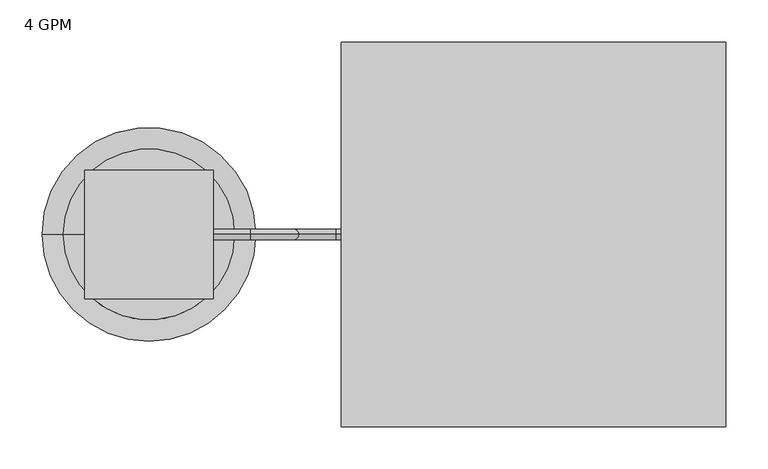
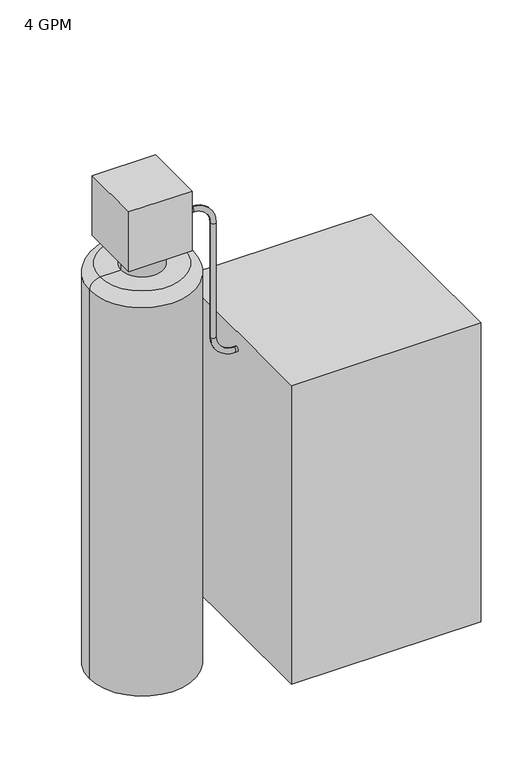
"""IFC4 building model written with IfcOpenShell, lengths in millimetres: proxy geometry, Water Softener : 4 GPM."""

import ifcopenshell
import ifcopenshell.guid

model = None  # the IFC model being written
_history = None  # IfcOwnerHistory: only IFC2X3 demands one
_inside = {}  # id of a spatial element -> (the spatial element, [elements in it])
_under = {}  # id of a project, library or spatial element -> (it, [spatial elements below it])
_declared = {}  # id of a project -> (the project, [libraries it declares])
_typed = {}  # id of a type object -> (the type object, [elements of that type])
_made_of = {}  # id of a material, layer set ... -> (it, [elements and type objects made of it])


def new_model(schema):
    """Start an empty IFC model of exactly this schema.

    Asked for "IFC4X3", IfcOpenShell would pick the latest addendum, in which some entities
    have other attributes; the version numbers below select the first issue.
    IFC2X3 requires an IfcOwnerHistory on every rooted entity: one is made here for all.
    """
    global model, _history
    if schema == "IFC4X3":
        model = ifcopenshell.file(schema_version=(4, 3, 0, 0))
    else:
        model = ifcopenshell.file(schema=schema)
    _inside.clear()
    _under.clear()
    _declared.clear()
    _typed.clear()
    _made_of.clear()
    _history = None
    if model.schema == "IFC2X3":
        org = make("IfcOrganization", Name="unknown")
        user = make(
            "IfcPersonAndOrganization",
            ThePerson=make("IfcPerson", FamilyName="unknown"),
            TheOrganization=org,
        )
        app = make(
            "IfcApplication",
            ApplicationDeveloper=org,
            Version="unknown",
            ApplicationFullName="unknown",
            ApplicationIdentifier="unknown",
        )
        _history = make(
            "IfcOwnerHistory",
            OwningUser=user,
            OwningApplication=app,
            ChangeAction="ADDED",
            CreationDate=0,
        )
    return model


def make(cls, **values):
    """One entity of the class cls with the attributes given. An attribute that is None is left unset."""
    return model.create_entity(
        cls, **{name: value for name, value in values.items() if value is not None}
    )


def rooted(cls, **values):
    """An entity with a GlobalId (a new one), such as an element, a storey or a relation."""
    return make(cls, GlobalId=ifcopenshell.guid.new(), OwnerHistory=_history, **values)


def si_unit(unit_type, name, prefix=None):
    """IfcSIUnit, for example si_unit("LENGTHUNIT", "METRE", prefix="MILLI")."""
    return make("IfcSIUnit", UnitType=unit_type, Prefix=prefix, Name=name)


def assignment(units):
    """IfcUnitAssignment: the units of a project."""
    return None if units is None else make("IfcUnitAssignment", Units=units)


def point(xyz):
    """IfcCartesianPoint."""
    return None if xyz is None else make("IfcCartesianPoint", Coordinates=xyz)


def direction(xyz):
    """IfcDirection."""
    return None if xyz is None else make("IfcDirection", DirectionRatios=xyz)


def frame(location, z_axis=None, x_axis=None):
    """IfcAxis2Placement3D, a coordinate frame: its origin and axes. An axis left out is left unset."""
    return make(
        "IfcAxis2Placement3D",
        Location=point(location),
        Axis=direction(z_axis),
        RefDirection=direction(x_axis),
    )


def frame_2d(location, x_axis=None):
    """IfcAxis2Placement2D, a coordinate frame in the plane: its origin and x axis."""
    return make(
        "IfcAxis2Placement2D", Location=point(location), RefDirection=direction(x_axis)
    )


def origin():
    """The frame at (0, 0, 0) with its axes left unset."""
    return frame((0.0, 0.0, 0.0))


def origin_with_axes():
    """The frame at (0, 0, 0) with the z axis (0, 0, 1) and the x axis (1, 0, 0) written out."""
    return frame((0.0, 0.0, 0.0), z_axis=(0.0, 0.0, 1.0), x_axis=(1.0, 0.0, 0.0))


def origin_2d():
    """The frame at (0, 0) in the plane with its x axis left unset."""
    return frame_2d((0.0, 0.0))


def place(relative_to, where):
    """IfcLocalPlacement: puts the frame where relative to a parent placement (None: the world)."""
    return make(
        "IfcLocalPlacement", PlacementRelTo=relative_to, RelativePlacement=where
    )


def context(
    kind, dimensions, precision=None, world=None, true_north=None, identifier=None
):
    """IfcGeometricRepresentationContext, for example the 3D "Model" context."""
    return make(
        "IfcGeometricRepresentationContext",
        ContextIdentifier=identifier,
        ContextType=kind,
        CoordinateSpaceDimension=dimensions,
        Precision=precision,
        WorldCoordinateSystem=world,
        TrueNorth=true_north,
    )


def project(units=None, contexts=None):
    """IfcProject with its units and contexts."""
    return rooted(
        "IfcProject",
        Name="project",
        RepresentationContexts=contexts,
        UnitsInContext=assignment(units),
    )


def spatial(cls, under=None, at=None, **own):
    """A site, building, storey or space (cls), placed at a placement, below another one or the project."""
    s = rooted(cls, ObjectPlacement=at, **own)
    if under is not None:
        _under.setdefault(under.id(), (under, []))[1].append(s)
    return s


def polyline(points):
    """IfcPolyline through the points."""
    return make("IfcPolyline", Points=[point(p) for p in points])


def circle_curve(where, radius):
    """IfcCircle in the frame where."""
    return make("IfcCircle", Position=where, Radius=radius)


def ellipse_curve(where, semi_axis1, semi_axis2):
    """IfcEllipse in the frame where."""
    return make(
        "IfcEllipse", Position=where, SemiAxis1=semi_axis1, SemiAxis2=semi_axis2
    )


def trimmed(basis, trim1, trim2, sense, master):
    """IfcTrimmedCurve: the piece of a basis curve between two trims."""
    return make(
        "IfcTrimmedCurve",
        BasisCurve=basis,
        Trim1=trim1,
        Trim2=trim2,
        SenseAgreement=sense,
        MasterRepresentation=master,
    )


def segment(curve, same_sense, transition):
    """IfcCompositeCurveSegment."""
    return make(
        "IfcCompositeCurveSegment",
        Transition=transition,
        SameSense=same_sense,
        ParentCurve=curve,
    )


def composite_curve(segments, self_intersect=None):
    """IfcCompositeCurve: segments joined end to end."""
    return make("IfcCompositeCurve", Segments=segments, SelfIntersect=self_intersect)


def outline(outer, holes=None, kind="AREA"):
    """IfcArbitraryClosedProfileDef: a profile drawn as a closed curve; with holes, ...WithVoids."""
    if holes is None:
        return make("IfcArbitraryClosedProfileDef", ProfileType=kind, OuterCurve=outer)
    return make(
        "IfcArbitraryProfileDefWithVoids",
        ProfileType=kind,
        OuterCurve=outer,
        InnerCurves=holes,
    )


def extrude(swept, where, along, depth):
    """IfcExtrudedAreaSolid: the profile swept, set in the frame where, extruded along a direction by depth."""
    return make(
        "IfcExtrudedAreaSolid",
        SweptArea=swept,
        Position=where,
        ExtrudedDirection=direction(along),
        Depth=depth,
    )


def shape(context_of_items, identifier, shape_type, items):
    """IfcShapeRepresentation: the items that make up one representation, for example the "Body"."""
    return make(
        "IfcShapeRepresentation",
        ContextOfItems=context_of_items,
        RepresentationIdentifier=identifier,
        RepresentationType=shape_type,
        Items=items,
    )


def source(mapping_origin, context_of_items, identifier, shape_type, items):
    """IfcRepresentationMap: a shape defined once, which mapped items show again and again."""
    return make(
        "IfcRepresentationMap",
        MappingOrigin=mapping_origin,
        MappedRepresentation=shape(context_of_items, identifier, shape_type, items),
    )


def transform(
    local_origin,
    x_axis=None,
    y_axis=None,
    z_axis=None,
    scale=None,
    scale2=None,
    scale3=None,
    uniform=True,
):
    """IfcCartesianTransformationOperator3D, or its non-uniform kind. x_axis, y_axis, z_axis: its Axis1, 2, 3."""
    if uniform:
        return make(
            "IfcCartesianTransformationOperator3D",
            Axis1=direction(x_axis),
            Axis2=direction(y_axis),
            LocalOrigin=point(local_origin),
            Scale=scale,
            Axis3=direction(z_axis),
        )
    return make(
        "IfcCartesianTransformationOperator3DnonUniform",
        Axis1=direction(x_axis),
        Axis2=direction(y_axis),
        LocalOrigin=point(local_origin),
        Scale=scale,
        Axis3=direction(z_axis),
        Scale2=scale2,
        Scale3=scale3,
    )


def mapped(mapping_source, mapping_target):
    """IfcMappedItem: shows the shape of a source again, moved by a transform."""
    return make(
        "IfcMappedItem", MappingSource=mapping_source, MappingTarget=mapping_target
    )


def made_of(thing, what):
    """Note that an element or type object is made of a material, layer set ...; save() writes the relation."""
    if what is not None:
        _made_of.setdefault(what.id(), (what, []))[1].append(thing)
    return thing


def element(
    cls,
    number,
    at=None,
    inside=None,
    cuts=None,
    type_object=None,
    material=None,
    context=None,
    identifier="Body",
    shape_type=None,
    held_by="IfcProductDefinitionShape",
    body=None,
    shapes=None,
    **own,
):
    """One element of the class cls, such as IfcWall. Its Tag is "e" and its number.

    at: its placement. inside: the storey or other place that contains it. cuts: it is an
    opening in that element (IfcRelVoidsElement). A single representation is given by context,
    identifier, shape_type and body (its items); several are given by shapes. held_by: the class
    of the entity that holds the representations. save() writes the other relations.
    """
    e = rooted(cls, Tag="e%d" % number, ObjectPlacement=at, **own)
    if body is not None:
        shapes = [shape(context, identifier, shape_type, body)]
    if shapes is not None:
        e.Representation = make(held_by, Representations=shapes)
    if inside is not None:
        _inside.setdefault(inside.id(), (inside, []))[1].append(e)
    if cuts is not None:
        rooted(
            "IfcRelVoidsElement", RelatingBuildingElement=cuts, RelatedOpeningElement=e
        )
    if type_object is not None:
        _typed.setdefault(type_object.id(), (type_object, []))[1].append(e)
    return made_of(e, material)


def aggregate(whole, parts):
    """IfcRelAggregates: a whole, such as a stair, and the parts it consists of."""
    return rooted("IfcRelAggregates", RelatingObject=whole, RelatedObjects=parts)


def save(model, path):
    """Write the relations noted so far, then the file.

    IfcRelAggregates (storeys below a building ...), IfcRelContainedInSpatialStructure (elements
    in a storey), IfcRelDefinesByType, IfcRelAssociatesMaterial and IfcRelDeclares: one each for
    every whole, place, type object, material and project.
    """
    for whole, parts in _under.values():
        aggregate(whole, parts)
    for where, things in _inside.values():
        rooted(
            "IfcRelContainedInSpatialStructure",
            RelatedElements=things,
            RelatingStructure=where,
        )
    for kind, things in _typed.values():
        rooted("IfcRelDefinesByType", RelatedObjects=things, RelatingType=kind)
    for what, things in _made_of.values():
        rooted("IfcRelAssociatesMaterial", RelatedObjects=things, RelatingMaterial=what)
    for by, libraries in _declared.values():
        rooted("IfcRelDeclares", RelatingContext=by, RelatedDefinitions=libraries)
    model.write(path)


def plane_surface(at):
    """IfcPlane: the flat surface through the origin of the frame at, square to its z axis."""
    return make("IfcPlane", Position=at)


def cylinder_surface(at, radius):
    """IfcCylindricalSurface: all points at the distance radius from the z axis of the frame at."""
    return make("IfcCylindricalSurface", Position=at, Radius=radius)


def revolved_surface(curve, axis_point, axis_direction):
    """IfcSurfaceOfRevolution: the curve turned about the line through axis_point along axis_direction."""
    return make(
        "IfcSurfaceOfRevolution",
        SweptCurve=make("IfcArbitraryOpenProfileDef", ProfileType="CURVE", Curve=curve),
        AxisPosition=make("IfcAxis1Placement", Location=point(axis_point), Axis=direction(axis_direction)),
    )


def advanced_brep(points, edges, surfaces, faces):
    """IfcAdvancedBrep: a solid bounded by faces that lie on surfaces and meet in shared edges.

    An edge is (start, end): straight between two places in points (the first is 0);
    or (start, end, curve); or (start, end, curve, False) where it runs against its curve.
    A face is (place in surfaces, loops), or (place, loops, False) where it looks against
    its surface's normal. A loop lists edges by number (the first is 1), with a minus sign
    where the edge is run from its end to its start. The first loop is the outer one.
    """
    corners = [point(p) for p in points]
    vertices = [make("IfcVertexPoint", VertexGeometry=c) for c in corners]
    made = []
    for start, end, *more in edges:
        made.append(
            make(
                "IfcEdgeCurve",
                EdgeStart=vertices[start],
                EdgeEnd=vertices[end],
                EdgeGeometry=more[0] if more else make("IfcPolyline", Points=[corners[start], corners[end]]),
                SameSense=more[1] if len(more) > 1 else True,
            )
        )
    hull = []
    for where, loops, *sense in faces:
        bounds = []
        for j, loop in enumerate(loops):
            ring = [make("IfcOrientedEdge", EdgeElement=made[abs(k) - 1], Orientation=k > 0) for k in loop]
            bounds.append(
                make(
                    "IfcFaceOuterBound" if j == 0 else "IfcFaceBound",
                    Bound=make("IfcEdgeLoop", EdgeList=ring),
                    Orientation=True,
                )
            )
        hull.append(make("IfcAdvancedFace", Bounds=bounds, FaceSurface=surfaces[where], SameSense=sense[0] if sense else True))
    return make("IfcAdvancedBrep", Outer=make("IfcClosedShell", CfsFaces=hull))


def proxy_4_gpm_2e990802(model_context):
    return source(origin(), model_context, "Body", "SolidModel", [
        extrude(outline(composite_curve([segment(trimmed(circle_curve(origin_2d(), 50.8), [point((-50.8, 0.0))], [point((50.8, 0.0))], False, "CARTESIAN"), True, "CONTINUOUS"), segment(trimmed(circle_curve(origin_2d(), 50.8), [point((50.8, 0.0))], [point((-50.8, 0.0))], False, "CARTESIAN"), True, "CONTINUOUS")], self_intersect=False)), frame((0.0, 0.0, 1016.0), z_axis=(0.0, 0.0, 1.0), x_axis=(1.0, 0.0, 0.0)), (0.0, 0.0, 1.0), 50.8),
        advanced_brep(
        [(-127.0, 0.0, 0.0), (127.0, 0.0, 0.0), (127.0, 0.0, 990.6), (-127.0, 0.0, 990.6), (101.6, 0.0, 1016.0), (-101.6, 0.0, 1016.0), (0.0, 0.0, 1016.0)],
        [
            (0, 1, circle_curve(frame((0.0, 0.0, 0.0), z_axis=(0.0, 0.0, -1.0), x_axis=(1.0, 0.0, 0.0)), 127.0)),
            (1, 0, circle_curve(frame((0.0, 0.0, 0.0), z_axis=(0.0, 0.0, -1.0), x_axis=(1.0, 0.0, 0.0)), 127.0)),
            (1, 2),
            (2, 3, circle_curve(frame((0.0, 0.0, 990.6), z_axis=(0.0, 0.0, -1.0), x_axis=(1.0, 0.0, 0.0)), 127.0)),
            (3, 0),
            (3, 2, circle_curve(frame((0.0, 0.0, 990.6), z_axis=(0.0, 0.0, -1.0), x_axis=(1.0, 0.0, 0.0)), 127.0)),
            (4, 5, circle_curve(frame((0.0, 0.0, 1016.0), z_axis=(0.0, 0.0, 1.0), x_axis=(-1.0, 0.0, 0.0)), 101.6)),
            (5, 6),
            (6, 4),
            (5, 4, circle_curve(frame((0.0, 0.0, 1016.0), z_axis=(0.0, 0.0, 1.0), x_axis=(-1.0, 0.0, 0.0)), 101.6)),
            (4, 2, circle_curve(frame((101.6, 0.0, 990.6), z_axis=(0.0, 1.0, 0.0), x_axis=(-1.0, 0.0, 0.0)), 25.4)),
            (3, 5, circle_curve(frame((-101.6, 0.0, 990.6), z_axis=(0.0, 1.0, 0.0), x_axis=(1.0, 0.0, 0.0)), 25.4)),
        ],
        [
            plane_surface(frame((127.0, 0.0, 0.0), z_axis=(0.0, 0.0, -1.0), x_axis=(0.0, -1.0, 0.0))),
            cylinder_surface(origin_with_axes(), 127.0),
            plane_surface(frame((0.0, 0.0, 1016.0), z_axis=(0.0, 0.0, 1.0), x_axis=(-1.0, 0.0, 0.0))),
            revolved_surface(trimmed(ellipse_curve(frame((-101.6, 0.0, 990.6), z_axis=(0.0, -1.0, 0.0), x_axis=(1.0, 0.0, 0.0)), 25.4, 25.4), [point((-101.6, 0.0, 1016.0))], [point((-127.0, 0.0, 990.6))], True, "CARTESIAN"), (0.0, 0.0, 1016.0), (0.0, 0.0, -1.0)),
        ],
        [
            (0, [[1, 2]]),
            (1, [[-2, 3, 4, 5]]),
            (1, [[-1, -5, 6, -3]]),
            (2, [[7, 8, 9]]),
            (2, [[-8, 10, -9]]),
            (3, [[-7, 11, -6, 12]]),
            (3, [[-10, -12, -4, -11]]),
        ],
    ),
        extrude(outline(polyline([(685.8, 228.6), (685.8, -228.6), (228.6, -228.6), (228.6, 228.6), (685.8, 228.6)])), origin_with_axes(), (0.0, 0.0, 1.0), 762.0),
        advanced_brep(
        [(76.2, 0.0, 1104.9), (76.2, 0.0, 1117.6), (120.65, 0.0, 1104.9), (120.65, 0.0, 1117.6), (177.8, 0.0, 1060.45), (165.1, 0.0, 1060.45), (165.1, 0.0, 768.35), (177.8, 0.0, 768.35), (222.25, 0.0, 723.9), (222.25, 0.0, 711.2), (228.6, 0.0, 711.2), (228.6, 0.0, 723.9)],
        [
            (0, 1, circle_curve(frame((76.2, 0.0, 1111.25), z_axis=(-1.0, 0.0, 0.0), x_axis=(0.0, 0.0, 1.0)), 6.35)),
            (1, 0, circle_curve(frame((76.2, 0.0, 1111.25), z_axis=(-1.0, 0.0, 0.0), x_axis=(0.0, 0.0, 1.0)), 6.35)),
            (0, 2),
            (2, 3, circle_curve(frame((120.65, 0.0, 1111.25), z_axis=(-1.0, 0.0, 0.0), x_axis=(0.0, 0.0, 1.0)), 6.35)),
            (3, 1),
            (3, 2, circle_curve(frame((120.65, 0.0, 1111.25), z_axis=(-1.0, 0.0, 0.0), x_axis=(0.0, 0.0, 1.0)), 6.35)),
            (4, 3, circle_curve(frame((120.65, 0.0, 1060.45), z_axis=(0.0, -1.0, 0.0), x_axis=(0.0, 0.0, 1.0)), 57.15)),
            (2, 5, circle_curve(frame((120.65, 0.0, 1060.45), z_axis=(0.0, 1.0, 0.0), x_axis=(0.0, 0.0, 1.0)), 44.45)),
            (5, 4, circle_curve(frame((171.45, 0.0, 1060.45), z_axis=(0.0, 0.0, 1.0), x_axis=(1.0, 0.0, 0.0)), 6.35)),
            (4, 5, circle_curve(frame((171.45, 0.0, 1060.45), z_axis=(0.0, 0.0, 1.0), x_axis=(1.0, 0.0, 0.0)), 6.35)),
            (5, 6),
            (6, 7, circle_curve(frame((171.45, 0.0, 768.35), z_axis=(0.0, 0.0, 1.0), x_axis=(1.0, 0.0, 0.0)), 6.35)),
            (7, 4),
            (7, 6, circle_curve(frame((171.45, 0.0, 768.35), z_axis=(0.0, 0.0, 1.0), x_axis=(1.0, 0.0, 0.0)), 6.35)),
            (8, 7, circle_curve(frame((222.25, 0.0, 768.35), z_axis=(0.0, 1.0, 0.0), x_axis=(-1.0, 0.0, 0.0)), 44.45)),
            (6, 9, circle_curve(frame((222.25, 0.0, 768.35), z_axis=(0.0, -1.0, 0.0), x_axis=(-1.0, 0.0, 0.0)), 57.15)),
            (9, 8, circle_curve(frame((222.25, 0.0, 717.55), z_axis=(-1.0, 0.0, 0.0), x_axis=(0.0, 0.0, 1.0)), 6.35)),
            (8, 9, circle_curve(frame((222.25, 0.0, 717.55), z_axis=(-1.0, 0.0, 0.0), x_axis=(0.0, 0.0, 1.0)), 6.35)),
            (10, 11, circle_curve(frame((228.6, 0.0, 717.55), z_axis=(1.0, 0.0, 0.0), x_axis=(0.0, 0.0, 1.0)), 6.35)),
            (11, 10, circle_curve(frame((228.6, 0.0, 717.55), z_axis=(1.0, 0.0, 0.0), x_axis=(0.0, 0.0, 1.0)), 6.35)),
            (9, 10),
            (11, 8),
        ],
        [
            plane_surface(frame((76.2, 0.0, 1111.25), z_axis=(-1.0, 0.0, 0.0), x_axis=(0.0, -1.0, 0.0))),
            cylinder_surface(frame((76.2, 0.0, 1111.25), z_axis=(-1.0, 0.0, 0.0), x_axis=(0.0, 0.0, 1.0)), 6.35),
            revolved_surface(trimmed(ellipse_curve(frame((120.65, 0.0, 1111.25), z_axis=(-1.0, 0.0, 0.0), x_axis=(0.0, 0.0, 1.0)), 6.35, 6.35), [point((120.65, 0.0, 1104.9))], [point((120.65, 0.0, 1117.6))], True, "CARTESIAN"), (120.65, 0.0, 1060.45), (0.0, 1.0, 0.0)),
            revolved_surface(trimmed(ellipse_curve(frame((120.65, 0.0, 1111.25), z_axis=(-1.0, 0.0, 0.0), x_axis=(0.0, 0.0, 1.0)), 6.35, 6.35), [point((120.65, 0.0, 1117.6))], [point((120.65, 0.0, 1104.9))], True, "CARTESIAN"), (120.65, 0.0, 1060.45), (0.0, 1.0, 0.0)),
            cylinder_surface(frame((171.45, 0.0, 1060.45), z_axis=(0.0, 0.0, 1.0), x_axis=(1.0, 0.0, 0.0)), 6.35),
            revolved_surface(trimmed(ellipse_curve(frame((171.45, 0.0, 768.35), z_axis=(0.0, 0.0, 1.0), x_axis=(1.0, 0.0, 0.0)), 6.35, 6.35), [point((165.1, 0.0, 768.35))], [point((177.8, 0.0, 768.35))], True, "CARTESIAN"), (222.25, 0.0, 768.35), (0.0, -1.0, 0.0)),
            revolved_surface(trimmed(ellipse_curve(frame((171.45, 0.0, 768.35), z_axis=(0.0, 0.0, 1.0), x_axis=(1.0, 0.0, 0.0)), 6.35, 6.35), [point((177.8, 0.0, 768.35))], [point((165.1, 0.0, 768.35))], True, "CARTESIAN"), (222.25, 0.0, 768.35), (0.0, -1.0, 0.0)),
            plane_surface(frame((228.6, 0.0, 717.55), z_axis=(1.0, 0.0, 0.0), x_axis=(0.0, -1.0, 0.0))),
            cylinder_surface(frame((222.25, 0.0, 717.55), z_axis=(-1.0, 0.0, 0.0), x_axis=(0.0, 0.0, 1.0)), 6.35),
        ],
        [
            (0, [[1, 2]]),
            (1, [[-1, 3, 4, 5]]),
            (1, [[-2, -5, 6, -3]]),
            (2, [[7, -4, 8, 9]]),
            (3, [[-8, -6, -7, 10]]),
            (4, [[-9, 11, 12, 13]]),
            (4, [[-10, -13, 14, -11]]),
            (5, [[15, -12, 16, 17]]),
            (6, [[-16, -14, -15, 18]]),
            (7, [[19, 20]]),
            (8, [[-17, 21, -20, 22]]),
            (8, [[-18, -22, -19, -21]]),
        ],
    ),
        extrude(outline(polyline([(76.2, 76.2), (76.2, -76.2), (-76.2, -76.2), (-76.2, 76.2), (76.2, 76.2)])), frame((0.0, 0.0, 1066.8), z_axis=(0.0, 0.0, 1.0), x_axis=(1.0, 0.0, 0.0)), (0.0, 0.0, 1.0), 152.4),
    ])


if __name__ == "__main__":
    model = new_model("IFC4")
    model_context = context("Model", 3, world=origin())
    ifc_project = project(units=[si_unit("LENGTHUNIT", "METRE", prefix="MILLI")], contexts=[model_context])
    site = spatial("IfcSite", under=ifc_project)
    building = spatial("IfcBuilding", under=site)
    placement = place(None, origin())
    proxy_4_gpm_shape = proxy_4_gpm_2e990802(model_context)
    element("IfcBuildingElementProxy", 1, Name="Water Softener : 4 GPM", ObjectType="Water Softener : 4 GPM", at=placement, inside=building, context=model_context, shape_type="MappedRepresentation", body=[
        mapped(proxy_4_gpm_shape, transform((0.0, 0.0, 0.0), x_axis=(1.0, 0.0, 0.0), y_axis=(0.0, 1.0, 0.0), z_axis=(0.0, 0.0, 1.0))),
    ])
    save(model, "model.ifc")
